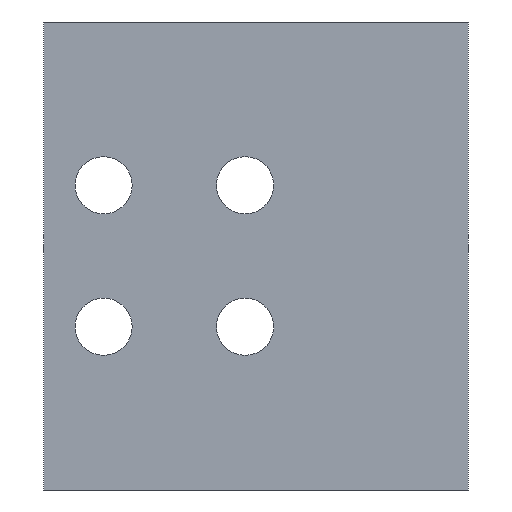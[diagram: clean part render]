
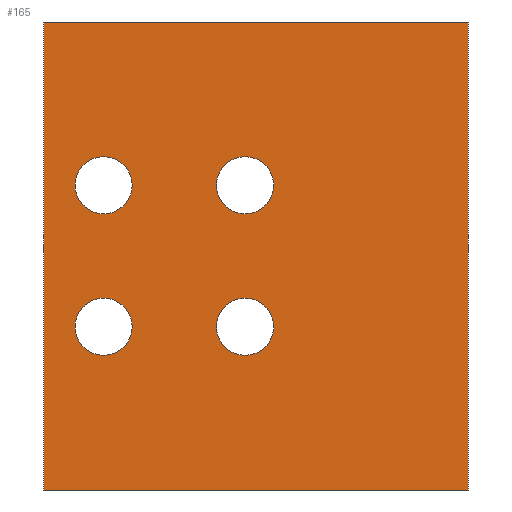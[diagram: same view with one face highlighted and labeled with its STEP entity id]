
A CAD part, front view. The second image highlights one B-rep face of the part: STEP entity #165.
In plain terms, the highlighted planar face has unit normal (0, -1, 0).
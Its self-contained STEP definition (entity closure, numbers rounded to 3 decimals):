
#99 = EDGE_CURVE( '', #187, #113, #265, .T. );
#103 = EDGE_CURVE( '', #205, #171, #274, .T. );
#107 = VERTEX_POINT( '', #278 );
#111 = VERTEX_POINT( '', #282 );
#113 = VERTEX_POINT( '', #284 );
#121 = VERTEX_POINT( '', #293 );
#123 = EDGE_CURVE( '', #141, #107, #295, .T. );
#125 = EDGE_CURVE( '', #217, #149, #297, .T. );
#127 = EDGE_CURVE( '', #149, #217, #299, .T. );
#139 = VERTEX_POINT( '', #312 );
#141 = VERTEX_POINT( '', #314 );
#147 = EDGE_CURVE( '', #171, #205, #320, .T. );
#149 = VERTEX_POINT( '', #322 );
#151 = EDGE_CURVE( '', #231, #111, #324, .T. );
#163 = EDGE_CURVE( '', #121, #139, #336, .T. );
#165 = ADVANCED_FACE( '', ( #338, #339, #340, #341, #342 ), #343, .T. );
#169 = EDGE_CURVE( '', #113, #187, #347, .T. );
#171 = VERTEX_POINT( '', #349 );
#183 = EDGE_CURVE( '', #141, #231, #364, .T. );
#187 = VERTEX_POINT( '', #369 );
#205 = VERTEX_POINT( '', #389 );
#207 = EDGE_CURVE( '', #139, #121, #391, .T. );
#217 = VERTEX_POINT( '', #402 );
#231 = VERTEX_POINT( '', #418 );
#247 = EDGE_CURVE( '', #107, #111, #435, .T. );
#265 = CIRCLE( '', #444, 5.25 );
#274 = CIRCLE( '', #454, 5.25 );
#278 = CARTESIAN_POINT( '', ( -39., 0., 43. ) );
#282 = CARTESIAN_POINT( '', ( -39., 0., -43. ) );
#284 = CARTESIAN_POINT( '', ( -33.25, 0., -13. ) );
#293 = CARTESIAN_POINT( '', ( -22.75, 0., 13. ) );
#295 = LINE( '', #481, #482 );
#297 = CIRCLE( '', #485, 5.25 );
#299 = CIRCLE( '', #488, 5.25 );
#312 = CARTESIAN_POINT( '', ( -33.25, 0., 13. ) );
#314 = CARTESIAN_POINT( '', ( 39., 0., 43. ) );
#320 = CIRCLE( '', #514, 5.25 );
#322 = CARTESIAN_POINT( '', ( -7.25, 0., 13. ) );
#324 = LINE( '', #519, #520 );
#336 = CIRCLE( '', #539, 5.25 );
#338 = FACE_BOUND( '', #541, .T. );
#339 = FACE_BOUND( '', #542, .T. );
#340 = FACE_BOUND( '', #543, .T. );
#341 = FACE_BOUND( '', #544, .T. );
#342 = FACE_OUTER_BOUND( '', #545, .T. );
#343 = PLANE( '', #546 );
#347 = CIRCLE( '', #552, 5.25 );
#349 = CARTESIAN_POINT( '', ( -7.25, 0., -13. ) );
#364 = LINE( '', #571, #572 );
#369 = CARTESIAN_POINT( '', ( -22.75, 0., -13. ) );
#389 = CARTESIAN_POINT( '', ( 3.25, 0., -13. ) );
#391 = CIRCLE( '', #606, 5.25 );
#402 = CARTESIAN_POINT( '', ( 3.25, 0., 13. ) );
#418 = CARTESIAN_POINT( '', ( 39., 0., -43. ) );
#435 = LINE( '', #667, #668 );
#444 = AXIS2_PLACEMENT_3D( '', #670, #671, #672 );
#454 = AXIS2_PLACEMENT_3D( '', #689, #690, #691 );
#481 = CARTESIAN_POINT( '', ( 39., 0., 43. ) );
#482 = VECTOR( '', #704, 1. );
#485 = AXIS2_PLACEMENT_3D( '', #705, #706, #707 );
#488 = AXIS2_PLACEMENT_3D( '', #708, #709, #710 );
#514 = AXIS2_PLACEMENT_3D( '', #721, #722, #723 );
#519 = CARTESIAN_POINT( '', ( 39., 0., -43. ) );
#520 = VECTOR( '', #724, 1. );
#539 = AXIS2_PLACEMENT_3D( '', #728, #729, #730 );
#541 = EDGE_LOOP( '', ( #732, #733 ) );
#542 = EDGE_LOOP( '', ( #734, #735 ) );
#543 = EDGE_LOOP( '', ( #736, #737 ) );
#544 = EDGE_LOOP( '', ( #738, #739 ) );
#545 = EDGE_LOOP( '', ( #740, #741, #742, #743 ) );
#546 = AXIS2_PLACEMENT_3D( '', #744, #745, #746 );
#552 = AXIS2_PLACEMENT_3D( '', #750, #751, #752 );
#571 = CARTESIAN_POINT( '', ( 39., 0., 43. ) );
#572 = VECTOR( '', #780, 1. );
#606 = AXIS2_PLACEMENT_3D( '', #813, #814, #815 );
#667 = CARTESIAN_POINT( '', ( -39., 0., 43. ) );
#668 = VECTOR( '', #866, 1. );
#670 = CARTESIAN_POINT( '', ( -28., 0., -13. ) );
#671 = DIRECTION( '', ( 0., 1., 0. ) );
#672 = DIRECTION( '', ( -1., 0., 0. ) );
#689 = CARTESIAN_POINT( '', ( -2., 0., -13. ) );
#690 = DIRECTION( '', ( 0., 1., 0. ) );
#691 = DIRECTION( '', ( -1., 0., 0. ) );
#704 = DIRECTION( '', ( -1., 0., 0. ) );
#705 = CARTESIAN_POINT( '', ( -2., 0., 13. ) );
#706 = DIRECTION( '', ( 0., 1., 0. ) );
#707 = DIRECTION( '', ( -1., 0., 0. ) );
#708 = CARTESIAN_POINT( '', ( -2., 0., 13. ) );
#709 = DIRECTION( '', ( 0., 1., 0. ) );
#710 = DIRECTION( '', ( -1., 0., 0. ) );
#721 = CARTESIAN_POINT( '', ( -2., 0., -13. ) );
#722 = DIRECTION( '', ( 0., 1., 0. ) );
#723 = DIRECTION( '', ( -1., 0., 0. ) );
#724 = DIRECTION( '', ( -1., 0., 0. ) );
#728 = CARTESIAN_POINT( '', ( -28., 0., 13. ) );
#729 = DIRECTION( '', ( 0., 1., 0. ) );
#730 = DIRECTION( '', ( -1., 0., 0. ) );
#732 = ORIENTED_EDGE( '', *, *, #125, .T. );
#733 = ORIENTED_EDGE( '', *, *, #127, .T. );
#734 = ORIENTED_EDGE( '', *, *, #163, .T. );
#735 = ORIENTED_EDGE( '', *, *, #207, .T. );
#736 = ORIENTED_EDGE( '', *, *, #103, .T. );
#737 = ORIENTED_EDGE( '', *, *, #147, .T. );
#738 = ORIENTED_EDGE( '', *, *, #99, .T. );
#739 = ORIENTED_EDGE( '', *, *, #169, .T. );
#740 = ORIENTED_EDGE( '', *, *, #247, .T. );
#741 = ORIENTED_EDGE( '', *, *, #151, .F. );
#742 = ORIENTED_EDGE( '', *, *, #183, .F. );
#743 = ORIENTED_EDGE( '', *, *, #123, .T. );
#744 = CARTESIAN_POINT( '', ( 39., 0., 43. ) );
#745 = DIRECTION( '', ( 0., -1., 0. ) );
#746 = DIRECTION( '', ( 0., 0., 1. ) );
#750 = CARTESIAN_POINT( '', ( -28., 0., -13. ) );
#751 = DIRECTION( '', ( 0., 1., 0. ) );
#752 = DIRECTION( '', ( -1., 0., 0. ) );
#780 = DIRECTION( '', ( 0., 0., -1. ) );
#813 = CARTESIAN_POINT( '', ( -28., 0., 13. ) );
#814 = DIRECTION( '', ( 0., 1., 0. ) );
#815 = DIRECTION( '', ( -1., 0., 0. ) );
#866 = DIRECTION( '', ( 0., 0., -1. ) );
